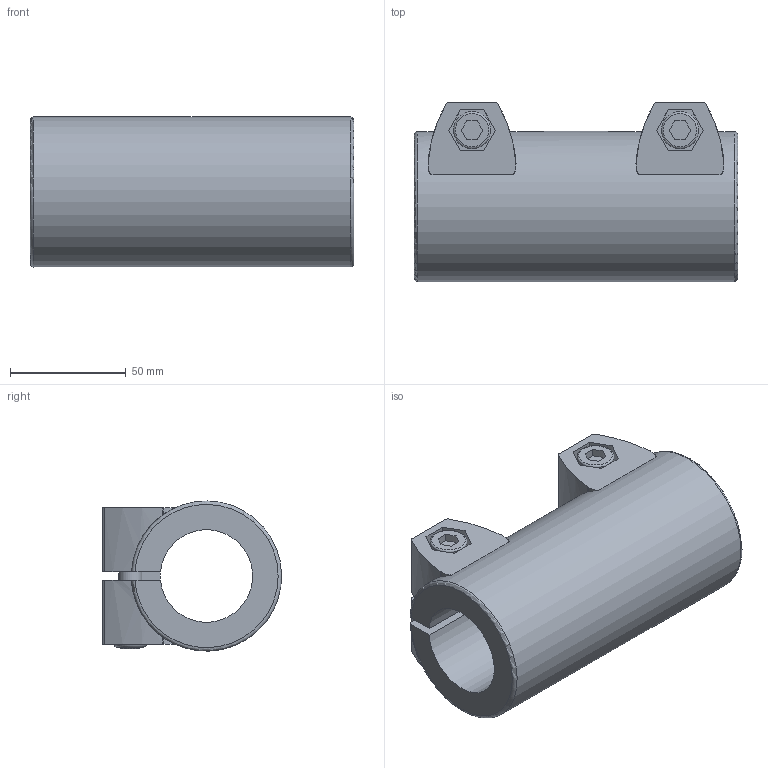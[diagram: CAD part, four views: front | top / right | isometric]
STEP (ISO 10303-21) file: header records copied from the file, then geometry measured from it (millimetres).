
FILE_DESCRIPTION( ( 'STEP AP203' ), '1' );
FILE_NAME( 'C:/Temp/Ganter_Step_05_03_2020/data/3_7/gn242/gn242_2/Tube connector GN 242-B40-B40-2-BL.stp', '2020-03-12T14:40:10', ( 'License CC BY-ND 4.0' ), ( 'CADENAS' ), ' ', 'PARTsolutions', ' ' );
FILE_SCHEMA( ( 'CONFIG_CONTROL_DESIGN' ) );
Length unit declared in the file: millimetre
Products named in the file (1): _Tube connector GN 242-B40-B40-2-BL
Bounding box: 140 x 77.48 x 64.96 mm (x, y, z)
Volume: 342447.3 mm3; surface area: 63902.2 mm2
Topology: 1 solids, 1 shells, 162 faces, 436 edges, 286 vertices
Faces by surface type: plane 84, cylinder 66, torus 8, cone 4
Full cylindrical faces by diameter (mm): 10 x2, 14 x2, 16 x2, 40 x1, 65 x1
Entity records: 5256 total; most frequent: CARTESIAN_POINT 1279, ORIENTED_EDGE 824, DIRECTION 782, EDGE_CURVE 412, VERTEX_POINT 282, AXIS2_PLACEMENT_3D 273, LINE 236, VECTOR 236
